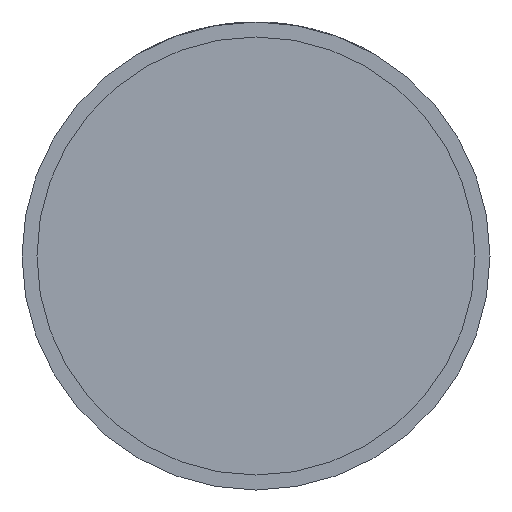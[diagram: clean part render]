
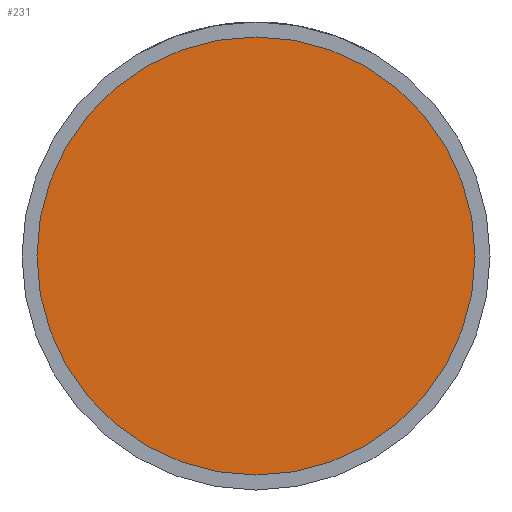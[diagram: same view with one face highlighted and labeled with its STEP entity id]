
A CAD part, front view. The second image highlights one B-rep face of the part: STEP entity #231.
In plain terms, the highlighted planar face has unit normal (0, -1, 0).
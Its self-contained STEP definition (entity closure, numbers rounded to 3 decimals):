
#231 = ADVANCED_FACE ( 'NONE', ( #1480 ), #2810, .T. ) ;
#394 = EDGE_CURVE ( 'NONE', #1298, #589, #845, .T. ) ;
#583 = CIRCLE ( 'NONE', #1777, 33.7 ) ;
#589 = VERTEX_POINT ( 'NONE', #1243 ) ;
#845 = CIRCLE ( 'NONE', #3833, 33.7 ) ;
#1064 = CARTESIAN_POINT ( 'NONE',  ( 33.7, -20., 0. ) ) ;
#1150 = CARTESIAN_POINT ( 'NONE',  ( 33.7, -20., 0. ) ) ;
#1243 = CARTESIAN_POINT ( 'NONE',  ( -33.7, -20., 0. ) ) ;
#1298 = VERTEX_POINT ( 'NONE', #1064 ) ;
#1459 = DIRECTION ( 'NONE',  ( 1., 0., 0. ) ) ;
#1480 = FACE_OUTER_BOUND ( 'NONE', #1808, .T. ) ;
#1755 = CARTESIAN_POINT ( 'NONE',  ( 0., -20., 0. ) ) ;
#1777 = AXIS2_PLACEMENT_3D ( 'NONE', #1755, #2772, #1459 ) ;
#1808 = EDGE_LOOP ( 'NONE', ( #3742, #2127 ) ) ;
#1911 = DIRECTION ( 'NONE',  ( 0., -1., 0. ) ) ;
#2127 = ORIENTED_EDGE ( 'NONE', *, *, #3294, .T. ) ;
#2498 = DIRECTION ( 'NONE',  ( 0., -1., 0. ) ) ;
#2772 = DIRECTION ( 'NONE',  ( 0., -1., 0. ) ) ;
#2810 = PLANE ( 'NONE',  #4178 ) ;
#2959 = DIRECTION ( 'NONE',  ( 1., 0., 0. ) ) ;
#3294 = EDGE_CURVE ( 'NONE', #589, #1298, #583, .T. ) ;
#3542 = CARTESIAN_POINT ( 'NONE',  ( 0., -20., 0. ) ) ;
#3742 = ORIENTED_EDGE ( 'NONE', *, *, #394, .T. ) ;
#3833 = AXIS2_PLACEMENT_3D ( 'NONE', #3542, #2498, #4165 ) ;
#4165 = DIRECTION ( 'NONE',  ( 1., 0., 0. ) ) ;
#4178 = AXIS2_PLACEMENT_3D ( 'NONE', #1150, #1911, #2959 ) ;
